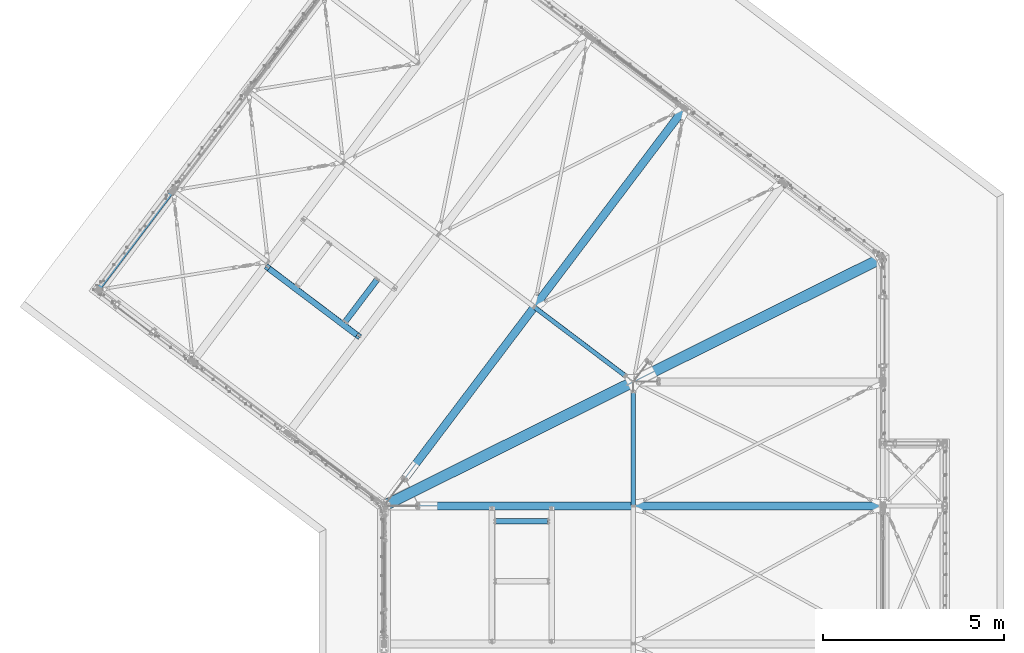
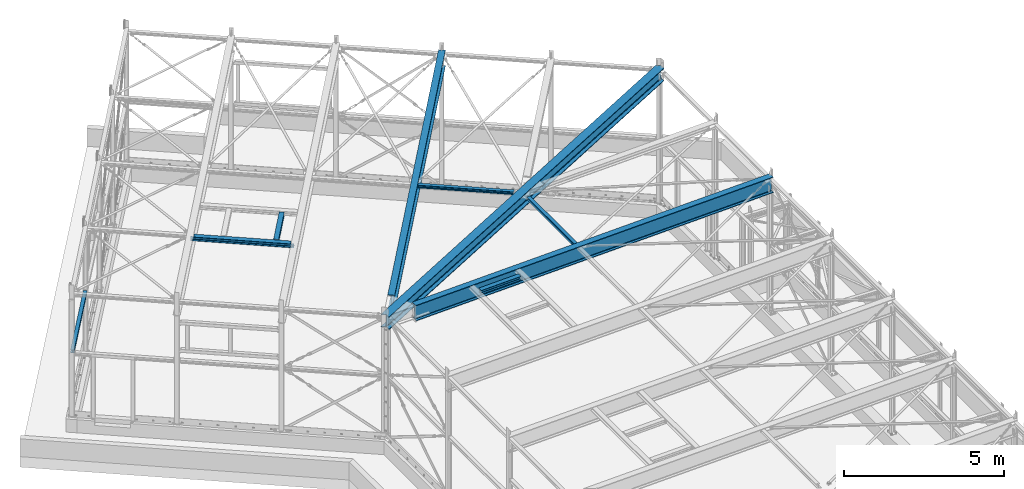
# One storey, part 20 of 476: 5 members, 4 beams, 48 openings.
"""IFC2X3 building model written with IfcOpenShell, lengths in millimetres."""

from ifc_helpers import new_model, entity, si_unit, converted_unit, point, frame, frame_2d, origin, origin_with_axes, origin_2d, origin_2d_with_axis, place, context, project, spatial, polyline, circle_curve, line_curve, trimmed, segment, composite_curve, circle, i_section, outline, extrude, clip, halfspace, material, element, save


model = new_model("IFC2X3")

# Units and contexts
model_context = context("Model", 3, precision=1e-09, world=origin_with_axes())
ifc_project = project(units=[si_unit("LENGTHUNIT", "METRE", prefix="MILLI"), si_unit("AREAUNIT", "SQUARE_METRE"), si_unit("VOLUMEUNIT", "CUBIC_METRE"), converted_unit("PLANEANGLEUNIT", "DEGREE", entity("IfcPlaneAngleMeasure", 0.01745329), si_unit("PLANEANGLEUNIT", "RADIAN"), dimensions=[0, 0, 0, 0, 0, 0, 0])], contexts=[model_context])

# Site, building, storey
site_placement = place(None, origin_with_axes())
site = spatial("IfcSite", under=ifc_project, at=site_placement, Name="mKR Teilneubau & Sanierung BA1 - Ostfildern", CompositionType="ELEMENT")
building_placement = place(site_placement, origin_with_axes())
building = spatial("IfcBuilding", under=site, at=building_placement, Name="Struktur 1", CompositionType="ELEMENT")
storey_placement = place(building_placement, origin_with_axes())
storey = spatial("IfcBuildingStorey", under=building, at=storey_placement, Name="Default Storey", CompositionType="ELEMENT", Elevation=0.0)

# Member, openings
ifc_material = material(Name="S235JR")
member_1_placement = place(None, frame((9137.515328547, -5948.67387897, 5003.322608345), z_axis=(-0.999548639, 0.0, -0.030041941), x_axis=(0.0, -1.0, 0.0)))
member_1 = element("IfcMember", 1, at=member_1_placement, inside=storey, material=ifc_material, Name="-", ObjectType="-", context=model_context, shape_type="Clipping", body=[
    clip(extrude(i_section(OverallWidth=220.0, OverallDepth=600.0, WebThickness=12.0, FlangeThickness=19.0, FilletRadius=24.0, at=origin_2d()), origin(), (0.0, 0.0, -1.0), 13258.607699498), halfspace(frame((-5948.67387897, -5388.142475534, -12728.467308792), z_axis=(0.0, 0.030041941, 0.999548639), x_axis=(1.0, 0.0, 0.0)), True)),
])
opening_1_placement = place(member_1_placement, frame((-6.5, 183.025662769, -5906.271282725), z_axis=(1.0, 0.0, 0.0), x_axis=(0.0, 1.0, -2.2474e-05)))
element("IfcOpeningElement", 2, at=opening_1_placement, cuts=member_1, ObjectType="Opening", context=model_context, shape_type="SweptSolid", body=[
    extrude(circle(Radius=7.001, at=origin_2d_with_axis()), origin(), (0.0, 0.0, 1.0), 13.0),
])
opening_2_placement = place(member_1_placement, frame((-6.5, 183.024539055, -5966.271282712), z_axis=(1.0, 0.0, 0.0), x_axis=(0.0, 1.0, -2.2474e-05)))
element("IfcOpeningElement", 3, at=opening_2_placement, cuts=member_1, ObjectType="Opening", context=model_context, shape_type="SweptSolid", body=[
    extrude(circle(Radius=7.001, at=origin_2d_with_axis()), origin(), (0.0, 0.0, 1.0), 13.0),
])
opening_3_placement = place(member_1_placement, frame((-6.5, 183.027099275, -12814.38713994), z_axis=(1.0, 0.0, 0.0), x_axis=(0.0, 1.0, 0.0)))
element("IfcOpeningElement", 4, at=opening_3_placement, cuts=member_1, ObjectType="Opening", context=model_context, shape_type="SweptSolid", body=[
    extrude(circle(Radius=7.001, at=origin_2d_with_axis()), origin(), (0.0, 0.0, 1.0), 13.0),
])
opening_4_placement = place(member_1_placement, frame((-6.5, 183.027099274, -12864.38713994), z_axis=(1.0, 0.0, 0.0), x_axis=(0.0, 1.0, 0.0)))
element("IfcOpeningElement", 5, at=opening_4_placement, cuts=member_1, ObjectType="Opening", context=model_context, shape_type="SweptSolid", body=[
    extrude(circle(Radius=7.001, at=origin_2d_with_axis()), origin(), (0.0, 0.0, 1.0), 13.0),
])
opening_5_placement = place(member_1_placement, frame((52.001, -300.5, -12851.768418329), z_axis=(0.0, -1.0, 0.0), x_axis=(1.0, 0.0, 0.0)))
element("IfcOpeningElement", 6, at=opening_5_placement, cuts=member_1, ObjectType="Opening", context=model_context, shape_type="SweptSolid", body=[
    extrude(circle(Radius=7.001, at=frame_2d((-7.001, 0.0), x_axis=(1.0, 0.0))), origin(), (0.0, 0.0, -1.0), 20.0),
])
opening_6_placement = place(member_1_placement, frame((52.001, -300.5, -12796.768418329), z_axis=(0.0, -1.0, 0.0), x_axis=(1.0, 0.0, 0.0)))
element("IfcOpeningElement", 7, at=opening_6_placement, cuts=member_1, ObjectType="Opening", context=model_context, shape_type="SweptSolid", body=[
    extrude(circle(Radius=7.001, at=frame_2d((-7.001, 0.0), x_axis=(1.0, 0.0))), origin(), (0.0, 0.0, -1.0), 20.0),
])
opening_7_placement = place(member_1_placement, frame((-37.999, -300.5, -12851.768418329), z_axis=(0.0, -1.0, 0.0), x_axis=(1.0, 0.0, 0.0)))
element("IfcOpeningElement", 8, at=opening_7_placement, cuts=member_1, ObjectType="Opening", context=model_context, shape_type="SweptSolid", body=[
    extrude(circle(Radius=7.001, at=frame_2d((-7.001, 0.0), x_axis=(1.0, 0.0))), origin(), (0.0, 0.0, -1.0), 20.0),
])
opening_8_placement = place(member_1_placement, frame((-37.999, -300.5, -12796.768418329), z_axis=(0.0, -1.0, 0.0), x_axis=(1.0, 0.0, 0.0)))
element("IfcOpeningElement", 9, at=opening_8_placement, cuts=member_1, ObjectType="Opening", context=model_context, shape_type="SweptSolid", body=[
    extrude(circle(Radius=7.001, at=frame_2d((-7.001, 0.0), x_axis=(1.0, 0.0))), origin(), (0.0, 0.0, -1.0), 20.0),
])
opening_9_placement = place(member_1_placement, frame((6.5, 247.888062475, -12885.85664774), z_axis=(-1.0, 0.0, 0.0), x_axis=(0.0, 0.030041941, 0.999548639)))
element("IfcOpeningElement", 10, at=opening_9_placement, cuts=member_1, ObjectType="Opening", context=model_context, shape_type="SweptSolid", body=[
    extrude(circle(Radius=7.001, at=origin_2d_with_axis()), origin(), (0.0, 0.0, 1.0), 13.0),
])
opening_10_placement = place(member_1_placement, frame((6.5, -247.888062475, -12870.955844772), z_axis=(-1.0, 0.0, 0.0), x_axis=(0.0, 0.030041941, 0.999548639)))
element("IfcOpeningElement", 11, at=opening_10_placement, cuts=member_1, ObjectType="Opening", context=model_context, shape_type="SweptSolid", body=[
    extrude(circle(Radius=7.001, at=origin_2d_with_axis()), origin(), (0.0, 0.0, 1.0), 13.0),
])

# Member
member_2_placement = place(None, frame((12919.483965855, -6375.673034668, 5341.051321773), z_axis=(0.999549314, 0.0, 0.030019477), x_axis=(0.0, 1.0, 0.0)))
element("IfcMember", 12, at=member_2_placement, inside=storey, material=ifc_material, Name="-", ObjectType="-", context=model_context, shape_type="Clipping", body=[
    clip(clip(extrude(i_section(OverallWidth=160.0, OverallDepth=152.0, WebThickness=6.0, FlangeThickness=9.0, FilletRadius=15.0, at=origin_2d()), origin(), (0.0, 0.0, -1.0), 1880.689827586), halfspace(frame((6375.673034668, -4950.808028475, -220.345913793), z_axis=(0.0, 0.0, -1.0), x_axis=(-1.0, 0.0, 0.0)), True)), halfspace(frame((6375.673034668, -4950.808028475, -1660.343913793), z_axis=(0.0, 0.0, 1.0), x_axis=(1.0, 0.0, 0.0)), True)),
])

# Beam, openings
beam_1_placement = place(None, frame((4793.230938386, 763.258134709, 5298.089644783), z_axis=(-0.797941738, 0.602734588, 0.0), x_axis=(0.602462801, 0.797581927, 0.030027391)))
beam_1 = element("IfcBeam", 13, at=beam_1_placement, inside=storey, material=ifc_material, Name="-", ObjectType="-", context=model_context, shape_type="Clipping", body=[
    clip(clip(extrude(i_section(OverallWidth=160.0, OverallDepth=152.0, WebThickness=6.0, FlangeThickness=9.0, FilletRadius=15.0, at=origin_2d()), origin(), (0.0, 0.0, -1.0), 3520.689898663), halfspace(frame((-3655.592037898, 5190.662357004, -131.346092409), z_axis=(0.0, 0.0, -1.0), x_axis=(0.999549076, 0.030027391, 0.0)), True)), halfspace(frame((-3655.592037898, 5190.662357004, -3389.344127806), z_axis=(0.0, 0.0, 1.0), x_axis=(-0.999549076, -0.030027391, 0.0)), True)),
])
opening_11_placement = place(beam_1_placement, frame((-1500.0000131, 0.0, -110.345070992), z_axis=(1.0, 0.0, 1.05e-07), x_axis=(-1.05e-07, 0.0, 1.0)))
element("IfcOpeningElement", 14, at=opening_11_placement, cuts=beam_1, ObjectType="Opening", context=model_context, shape_type="SweptSolid", body=[
    extrude(outline(composite_curve([segment(trimmed(line_curve((-20.200170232, 41.999903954), (0.0, 1.0), 34.800096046), [point((-20.200170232, 41.999903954))], [point((-20.200170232, 76.8))], True, "CARTESIAN"), True, "CONTINUOUS"), segment(trimmed(line_curve((-20.200170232, 76.8), (-1.0, 0.0), 104.8), [point((-20.200170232, 76.8))], [point((-125.000170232, 76.8))], True, "CARTESIAN"), True, "CONTINUOUS"), segment(trimmed(line_curve((-125.000170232, 76.8), (0.0, -1.0), 24.800096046), [point((-125.000170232, 76.8))], [point((-125.000170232, 51.999903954))], True, "CARTESIAN"), True, "CONTINUOUS"), segment(trimmed(circle_curve(frame_2d((-115.000170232, 51.999903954), x_axis=(1.0, 0.0)), 10.0), [point((-125.000170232, 51.999903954))], [point((-115.000170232, 41.999903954))], True, "CARTESIAN"), True, "CONTINUOUS"), segment(trimmed(line_curve((-115.000170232, 41.999903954), (1.0, 0.0), 94.8), [point((-115.000170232, 41.999903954))], [point((-20.200170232, 41.999903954))], True, "CARTESIAN"), True, "CONTINUOUS")], self_intersect=False)), origin(), (0.0, 0.0, 1.0), 3000.0),
])
opening_12_placement = place(beam_1_placement, frame((1500.0000131, 0.0, -3410.344827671), z_axis=(-1.0, 0.0, -1.05e-07), x_axis=(1.05e-07, 0.0, -1.0)))
element("IfcOpeningElement", 15, at=opening_12_placement, cuts=beam_1, ObjectType="Opening", context=model_context, shape_type="SweptSolid", body=[
    extrude(outline(composite_curve([segment(trimmed(line_curve((-20.19984868, 41.99990453), (0.0, 1.0), 34.80009547), [point((-20.19984868, 41.99990453))], [point((-20.19984868, 76.8))], True, "CARTESIAN"), True, "CONTINUOUS"), segment(trimmed(line_curve((-20.19984868, 76.8), (-1.0, 0.0), 104.8), [point((-20.19984868, 76.8))], [point((-124.99984868, 76.8))], True, "CARTESIAN"), True, "CONTINUOUS"), segment(trimmed(line_curve((-124.99984868, 76.8), (0.0, -1.0), 24.80009547), [point((-124.99984868, 76.8))], [point((-124.99984868, 51.99990453))], True, "CARTESIAN"), True, "CONTINUOUS"), segment(trimmed(circle_curve(frame_2d((-114.99984868, 51.99990453), x_axis=(1.0, 0.0)), 10.0), [point((-124.99984868, 51.99990453))], [point((-114.99984868, 41.99990453))], True, "CARTESIAN"), True, "CONTINUOUS"), segment(trimmed(line_curve((-114.99984868, 41.99990453), (1.0, 0.0), 94.8), [point((-114.99984868, 41.99990453))], [point((-20.19984868, 41.99990453))], True, "CARTESIAN"), True, "CONTINUOUS")], self_intersect=False)), origin(), (0.0, 0.0, 1.0), 3000.0),
])
opening_13_placement = place(beam_1_placement, frame((3.5, -16.999904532, -3364.34513619), z_axis=(-1.0, 0.0, 0.0), x_axis=(0.0, 0.0, 1.0)))
element("IfcOpeningElement", 16, at=opening_13_placement, cuts=beam_1, ObjectType="Opening", context=model_context, shape_type="SweptSolid", body=[
    extrude(circle(Radius=7.001, at=frame_2d((50.0, 40.0), x_axis=(1.0, 0.0))), origin(), (0.0, 0.0, 1.0), 7.0),
])
opening_14_placement = place(beam_1_placement, frame((3.5, -16.999904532, -3364.34513619), z_axis=(-1.0, 0.0, 0.0), x_axis=(0.0, 0.0, 1.0)))
element("IfcOpeningElement", 17, at=opening_14_placement, cuts=beam_1, ObjectType="Opening", context=model_context, shape_type="SweptSolid", body=[
    extrude(circle(Radius=7.001, at=frame_2d((0.0, 40.0), x_axis=(1.0, 0.0))), origin(), (0.0, 0.0, 1.0), 7.0),
])
opening_15_placement = place(beam_1_placement, frame((3.5, -16.999904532, -3364.34513619), z_axis=(-1.0, 0.0, 0.0), x_axis=(0.0, 0.0, 1.0)))
element("IfcOpeningElement", 18, at=opening_15_placement, cuts=beam_1, ObjectType="Opening", context=model_context, shape_type="SweptSolid", body=[
    extrude(circle(Radius=7.001, at=frame_2d((50.0, 0.0), x_axis=(1.0, 0.0))), origin(), (0.0, 0.0, 1.0), 7.0),
])
opening_16_placement = place(beam_1_placement, frame((3.5, -16.999904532, -3364.34513619), z_axis=(-1.0, 0.0, 0.0), x_axis=(0.0, 0.0, 1.0)))
element("IfcOpeningElement", 19, at=opening_16_placement, cuts=beam_1, ObjectType="Opening", context=model_context, shape_type="SweptSolid", body=[
    extrude(circle(Radius=7.001, at=origin_2d_with_axis()), origin(), (0.0, 0.0, 1.0), 7.0),
])
opening_17_placement = place(beam_1_placement, frame((3.5, 23.000096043, -199.344084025), z_axis=(1.0, 0.0, 0.0), x_axis=(0.0, 1.0, 0.0)))
element("IfcOpeningElement", 20, at=opening_17_placement, cuts=beam_1, ObjectType="Opening", context=model_context, shape_type="SweptSolid", body=[
    extrude(circle(Radius=7.001, at=frame_2d((0.0, -7.001), x_axis=(1.0, 0.0))), origin(), (0.0, 0.0, -1.0), 7.0),
])
opening_18_placement = place(beam_1_placement, frame((3.5, 23.000096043, -149.344084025), z_axis=(1.0, 0.0, 0.0), x_axis=(0.0, 1.0, 0.0)))
element("IfcOpeningElement", 21, at=opening_18_placement, cuts=beam_1, ObjectType="Opening", context=model_context, shape_type="SweptSolid", body=[
    extrude(circle(Radius=7.001, at=frame_2d((0.0, -7.001), x_axis=(1.0, 0.0))), origin(), (0.0, 0.0, -1.0), 7.0),
])
opening_19_placement = place(beam_1_placement, frame((3.5, -16.999903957, -199.344084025), z_axis=(1.0, 0.0, 0.0), x_axis=(0.0, 1.0, 0.0)))
element("IfcOpeningElement", 22, at=opening_19_placement, cuts=beam_1, ObjectType="Opening", context=model_context, shape_type="SweptSolid", body=[
    extrude(circle(Radius=7.001, at=frame_2d((0.0, -7.001), x_axis=(1.0, 0.0))), origin(), (0.0, 0.0, -1.0), 7.0),
])
opening_20_placement = place(beam_1_placement, frame((3.5, -16.999903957, -149.344084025), z_axis=(1.0, 0.0, 0.0), x_axis=(0.0, 1.0, 0.0)))
element("IfcOpeningElement", 23, at=opening_20_placement, cuts=beam_1, ObjectType="Opening", context=model_context, shape_type="SweptSolid", body=[
    extrude(circle(Radius=7.001, at=frame_2d((0.0, -7.001), x_axis=(1.0, 0.0))), origin(), (0.0, 0.0, -1.0), 7.0),
])

# Member
member_3_placement = place(None, frame((6967.398126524, -1017.248954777, 5294.776266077), z_axis=(-0.602462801, -0.797581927, -0.030027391), x_axis=(-0.797941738, 0.602734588, 0.0)))
element("IfcMember", 24, at=member_3_placement, inside=storey, material=ifc_material, Name="-", ObjectType="-", context=model_context, shape_type="Clipping", body=[
    clip(clip(extrude(i_section(OverallWidth=160.0, OverallDepth=152.0, WebThickness=6.0, FlangeThickness=9.0, FilletRadius=15.0, at=origin_2d()), origin(), (0.0, 0.0, -1.0), 1880.689827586), halfspace(frame((6172.708880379, 5190.662357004, -1660.343913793), z_axis=(0.0, 0.0, 1.0), x_axis=(-1.0, 0.0, 0.0)), True)), halfspace(frame((6172.708880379, 5190.662357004, -220.345913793), z_axis=(0.0, 0.0, -1.0), x_axis=(1.0, 0.0, 0.0)), True)),
])

# Member, openings
member_4_placement = place(None, frame((7921.267106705, -6070.322507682, 5021.787535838), z_axis=(-0.894867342, -0.445521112, -0.026895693), x_axis=(0.44568234, -0.895191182, 0.0)))
member_4 = element("IfcMember", 25, at=member_4_placement, inside=storey, material=ifc_material, Name="-", ObjectType="-", context=model_context, shape_type="SweptSolid", body=[
    extrude(i_section(OverallWidth=300.0, OverallDepth=490.0, WebThickness=12.0, FlangeThickness=23.0, FilletRadius=27.0, at=origin_2d()), origin(), (0.0, 0.0, -1.0), 16026.788764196),
])
opening_21_placement = place(member_4_placement, frame((0.0, -775.604991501, -15999.328951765), z_axis=(0.0, 0.999638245, -0.026895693), x_axis=(-1.0, 0.0, 0.0)))
element("IfcOpeningElement", 26, at=opening_21_placement, cuts=member_4, ObjectType="Opening", context=model_context, shape_type="SweptSolid", body=[
    extrude(outline(polyline([(-360.177947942, -305.888034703), (365.649796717, -305.888034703), (324.482608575, 424.184904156), (0.0, 262.63707929), (-299.568763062, 411.781206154), (-360.177947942, -305.888034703)])), origin(), (0.0, 0.0, 1.0), 1121.074333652),
])
opening_22_placement = place(member_4_placement, frame((5e-09, -344.709329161, 15.866458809), z_axis=(0.0, 0.999638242, -0.026895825), x_axis=(0.999999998, -1.685e-06, -6.2617e-05)))
element("IfcOpeningElement", 27, at=opening_22_placement, cuts=member_4, ObjectType="Opening", context=model_context, shape_type="SweptSolid", body=[
    extrude(outline(polyline([(-340.182913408, -266.888086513), (368.942201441, -266.888086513), (368.942201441, 32.720019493), (0.013559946, 216.424684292), (-353.826601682, 40.288507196), (-340.182913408, -266.888086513)])), origin(), (0.0, 0.0, 1.0), 1121.076446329),
])
opening_23_placement = place(member_4_placement, frame((51.992048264, -245.5, -15687.613324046), z_axis=(0.0, -1.0, 0.0), x_axis=(1.0, 0.0, 0.0)))
element("IfcOpeningElement", 28, at=opening_23_placement, cuts=member_4, ObjectType="Opening", context=model_context, shape_type="SweptSolid", body=[
    extrude(circle(Radius=7.001, at=frame_2d((-7.001, 0.0), x_axis=(1.0, 0.0))), origin(), (0.0, 0.0, -1.0), 24.0),
])
opening_24_placement = place(member_4_placement, frame((37.994779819, -245.5, -238.426189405), z_axis=(0.0, -1.0, 0.0), x_axis=(1.0, 0.0, 0.0)))
element("IfcOpeningElement", 29, at=opening_24_placement, cuts=member_4, ObjectType="Opening", context=model_context, shape_type="SweptSolid", body=[
    extrude(circle(Radius=7.001, at=frame_2d((7.000999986, -0.000438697), x_axis=(1.0, 0.0))), origin(), (0.0, 0.0, -1.0), 24.0),
])
opening_25_placement = place(member_4_placement, frame((-38.007951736, -245.5, -15687.613324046), z_axis=(0.0, -1.0, 0.0), x_axis=(1.0, 0.0, 0.0)))
element("IfcOpeningElement", 30, at=opening_25_placement, cuts=member_4, ObjectType="Opening", context=model_context, shape_type="SweptSolid", body=[
    extrude(circle(Radius=7.001, at=frame_2d((-7.001, 0.0), x_axis=(1.0, 0.0))), origin(), (0.0, 0.0, -1.0), 24.0),
])
opening_26_placement = place(member_4_placement, frame((51.992048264, -245.5, -15632.613324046), z_axis=(0.0, -1.0, 0.0), x_axis=(1.0, 0.0, 0.0)))
element("IfcOpeningElement", 31, at=opening_26_placement, cuts=member_4, ObjectType="Opening", context=model_context, shape_type="SweptSolid", body=[
    extrude(circle(Radius=7.001, at=frame_2d((-7.001, 0.0), x_axis=(1.0, 0.0))), origin(), (0.0, 0.0, -1.0), 24.0),
])
opening_27_placement = place(member_4_placement, frame((37.991333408, -245.5, -293.426189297), z_axis=(0.0, -1.0, 0.0), x_axis=(1.0, 0.0, 0.0)))
element("IfcOpeningElement", 32, at=opening_27_placement, cuts=member_4, ObjectType="Opening", context=model_context, shape_type="SweptSolid", body=[
    extrude(circle(Radius=7.001, at=frame_2d((7.000999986, -0.000438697), x_axis=(1.0, 0.0))), origin(), (0.0, 0.0, -1.0), 24.0),
])
opening_28_placement = place(member_4_placement, frame((-38.007951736, -245.5, -15632.613324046), z_axis=(0.0, -1.0, 0.0), x_axis=(1.0, 0.0, 0.0)))
element("IfcOpeningElement", 33, at=opening_28_placement, cuts=member_4, ObjectType="Opening", context=model_context, shape_type="SweptSolid", body=[
    extrude(circle(Radius=7.001, at=frame_2d((-7.001, 0.0), x_axis=(1.0, 0.0))), origin(), (0.0, 0.0, -1.0), 24.0),
])
opening_29_placement = place(member_4_placement, frame((-52.005220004, -245.5, -238.420549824), z_axis=(0.0, -1.0, 0.0), x_axis=(1.0, 0.0, 0.0)))
element("IfcOpeningElement", 34, at=opening_29_placement, cuts=member_4, ObjectType="Opening", context=model_context, shape_type="SweptSolid", body=[
    extrude(circle(Radius=7.001, at=frame_2d((7.000999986, -0.000438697), x_axis=(1.0, 0.0))), origin(), (0.0, 0.0, -1.0), 24.0),
])
opening_30_placement = place(member_4_placement, frame((-52.008666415, -245.5, -293.420549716), z_axis=(0.0, -1.0, 0.0), x_axis=(1.0, 0.0, 0.0)))
element("IfcOpeningElement", 35, at=opening_30_placement, cuts=member_4, ObjectType="Opening", context=model_context, shape_type="SweptSolid", body=[
    extrude(circle(Radius=7.001, at=frame_2d((7.000999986, -0.000438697), x_axis=(1.0, 0.0))), origin(), (0.0, 0.0, -1.0), 24.0),
])
opening_31_placement = place(member_4_placement, frame((6.582341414, 184.897017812, -15744.689628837), z_axis=(-0.999942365, 0.010736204, 0.0), x_axis=(0.000231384, 0.021550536, 0.999767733)))
element("IfcOpeningElement", 36, at=opening_31_placement, cuts=member_4, ObjectType="Opening", context=model_context, shape_type="SweptSolid", body=[
    extrude(circle(Radius=8.001, at=origin_2d_with_axis()), origin(), (0.0, 0.0, 1.0), 13.164013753),
])
opening_32_placement = place(member_4_placement, frame((6.582341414, -185.038364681, -15736.715470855), z_axis=(-0.999942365, 0.010736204, 0.0), x_axis=(0.000231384, 0.021550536, 0.999767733)))
element("IfcOpeningElement", 37, at=opening_32_placement, cuts=member_4, ObjectType="Opening", context=model_context, shape_type="SweptSolid", body=[
    extrude(circle(Radius=8.001, at=origin_2d_with_axis()), origin(), (0.0, 0.0, 1.0), 13.164013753),
])

# Beam
beam_2_placement = place(None, frame((2374.450956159, 2853.082501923, 2912.000000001), z_axis=(0.602734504, 0.797941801, 0.0), x_axis=(0.797941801, -0.602734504, 0.0)))
element("IfcBeam", 38, at=beam_2_placement, inside=storey, material=ifc_material, Name="-", ObjectType="-", context=model_context, shape_type="Clipping", body=[
    clip(clip(extrude(i_section(OverallWidth=120.0, OverallDepth=114.0, WebThickness=5.0, FlangeThickness=8.0, FilletRadius=12.0, at=origin_2d()), origin(), (0.0, 0.0, -1.0), 3615.517371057), halfspace(frame((-175.022404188, 2912.000000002, -182.759685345), z_axis=(0.0, 0.0, -1.0), x_axis=(1.0, 0.0, 0.0)), True)), halfspace(frame((-175.022404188, 2912.000000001, -3451.257685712), z_axis=(0.0, 0.0, 1.0), x_axis=(-1.0, 0.0, 0.0)), True)),
])

# Member, openings
member_5_placement = place(None, frame((8540.831152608, -5451.92847335, 4992.822021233), z_axis=(0.602462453, 0.797581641, 0.030041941), x_axis=(-0.797941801, 0.602734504, 0.0)))
member_5 = element("IfcMember", 39, at=member_5_placement, inside=storey, material=ifc_material, Name="-", ObjectType="-", context=model_context, shape_type="Clipping", body=[
    clip(clip(extrude(i_section(OverallWidth=220.0, OverallDepth=600.0, WebThickness=12.0, FlangeThickness=19.0, FilletRadius=24.0, at=origin_2d()), origin(), (0.0, 0.0, 1.0), 13608.138608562), halfspace(frame((10101.151595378, -5388.142475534, 13077.998217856), z_axis=(0.0, 0.030041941, -0.999548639), x_axis=(-1.0, 0.0, 0.0)), True)), halfspace(frame((10101.151595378, -4966.609046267, 349.531906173), z_axis=(0.0, 0.0, 1.0), x_axis=(1.0, 0.0, 0.0)), True)),
])
opening_33_placement = place(member_5_placement, frame((6.5, 183.027078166, 13163.916978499), z_axis=(-1.0, 0.0, 0.0), x_axis=(0.0, 1.0, 0.0)))
element("IfcOpeningElement", 40, at=opening_33_placement, cuts=member_5, ObjectType="Opening", context=model_context, shape_type="SweptSolid", body=[
    extrude(circle(Radius=7.001, at=origin_2d_with_axis()), origin(), (0.0, 0.0, 1.0), 13.0),
])
opening_34_placement = place(member_5_placement, frame((6.5, 183.027078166, 13213.916978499), z_axis=(-1.0, 0.0, 0.0), x_axis=(0.0, 1.0, 0.0)))
element("IfcOpeningElement", 41, at=opening_34_placement, cuts=member_5, ObjectType="Opening", context=model_context, shape_type="SweptSolid", body=[
    extrude(circle(Radius=7.001, at=origin_2d_with_axis()), origin(), (0.0, 0.0, 1.0), 13.0),
])
opening_35_placement = place(member_5_placement, frame((-6.5, 183.025518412, 6255.801209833), z_axis=(1.0, 0.0, 0.0), x_axis=(0.0, 1.0, 1.4557e-05)))
element("IfcOpeningElement", 42, at=opening_35_placement, cuts=member_5, ObjectType="Opening", context=model_context, shape_type="SweptSolid", body=[
    extrude(circle(Radius=7.001, at=origin_2d_with_axis()), origin(), (0.0, 0.0, 1.0), 13.0),
])
opening_36_placement = place(member_5_placement, frame((-6.5, 183.024644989, 6315.801209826), z_axis=(1.0, 0.0, 0.0), x_axis=(0.0, 1.0, 1.4557e-05)))
element("IfcOpeningElement", 43, at=opening_36_placement, cuts=member_5, ObjectType="Opening", context=model_context, shape_type="SweptSolid", body=[
    extrude(circle(Radius=7.001, at=origin_2d_with_axis()), origin(), (0.0, 0.0, 1.0), 13.0),
])
opening_37_placement = place(member_5_placement, frame((6.5, 248.0, 362.530906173), z_axis=(-1.0, 0.0, 0.0), x_axis=(0.0, 0.0, 1.0)))
element("IfcOpeningElement", 44, at=opening_37_placement, cuts=member_5, ObjectType="Opening", context=model_context, shape_type="SweptSolid", body=[
    extrude(circle(Radius=7.001, at=origin_2d_with_axis()), origin(), (0.0, 0.0, 1.0), 13.0),
])
opening_38_placement = place(member_5_placement, frame((6.5, -248.0, 362.530906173), z_axis=(-1.0, 0.0, 0.0), x_axis=(0.0, 0.0, 1.0)))
element("IfcOpeningElement", 45, at=opening_38_placement, cuts=member_5, ObjectType="Opening", context=model_context, shape_type="SweptSolid", body=[
    extrude(circle(Radius=7.001, at=origin_2d_with_axis()), origin(), (0.0, 0.0, 1.0), 13.0),
])
opening_39_placement = place(member_5_placement, frame((37.999, -300.5, 13201.299327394), z_axis=(0.0, -1.0, 0.0), x_axis=(1.0, 0.0, 0.0)))
element("IfcOpeningElement", 46, at=opening_39_placement, cuts=member_5, ObjectType="Opening", context=model_context, shape_type="SweptSolid", body=[
    extrude(circle(Radius=7.001, at=frame_2d((7.001, 0.0), x_axis=(1.0, 0.0))), origin(), (0.0, 0.0, -1.0), 20.0),
])
opening_40_placement = place(member_5_placement, frame((37.999, -300.5, 13146.299327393), z_axis=(0.0, -1.0, 0.0), x_axis=(1.0, 0.0, 0.0)))
element("IfcOpeningElement", 47, at=opening_40_placement, cuts=member_5, ObjectType="Opening", context=model_context, shape_type="SweptSolid", body=[
    extrude(circle(Radius=7.001, at=frame_2d((7.001, 0.0), x_axis=(1.0, 0.0))), origin(), (0.0, 0.0, -1.0), 20.0),
])
opening_41_placement = place(member_5_placement, frame((-52.001, -300.5, 13201.299327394), z_axis=(0.0, -1.0, 0.0), x_axis=(1.0, 0.0, 0.0)))
element("IfcOpeningElement", 48, at=opening_41_placement, cuts=member_5, ObjectType="Opening", context=model_context, shape_type="SweptSolid", body=[
    extrude(circle(Radius=7.001, at=frame_2d((7.001, 0.0), x_axis=(1.0, 0.0))), origin(), (0.0, 0.0, -1.0), 20.0),
])
opening_42_placement = place(member_5_placement, frame((-52.001, -300.5, 13146.299327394), z_axis=(0.0, -1.0, 0.0), x_axis=(1.0, 0.0, 0.0)))
element("IfcOpeningElement", 49, at=opening_42_placement, cuts=member_5, ObjectType="Opening", context=model_context, shape_type="SweptSolid", body=[
    extrude(circle(Radius=7.001, at=frame_2d((7.001, 0.0), x_axis=(1.0, 0.0))), origin(), (0.0, 0.0, -1.0), 20.0),
])
opening_43_placement = place(member_5_placement, frame((-6.5, 247.888062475, 13235.387556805), z_axis=(1.0, 0.0, 0.0), x_axis=(0.0, 0.030041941, -0.999548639)))
element("IfcOpeningElement", 50, at=opening_43_placement, cuts=member_5, ObjectType="Opening", context=model_context, shape_type="SweptSolid", body=[
    extrude(circle(Radius=7.001, at=origin_2d_with_axis()), origin(), (0.0, 0.0, 1.0), 13.0),
])
opening_44_placement = place(member_5_placement, frame((-6.5, -247.888062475, 13220.486753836), z_axis=(1.0, 0.0, 0.0), x_axis=(0.0, 0.030041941, -0.999548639)))
element("IfcOpeningElement", 51, at=opening_44_placement, cuts=member_5, ObjectType="Opening", context=model_context, shape_type="SweptSolid", body=[
    extrude(circle(Radius=7.001, at=origin_2d_with_axis()), origin(), (0.0, 0.0, 1.0), 13.0),
])

# Beam, openings
beam_3_placement = place(None, frame((12258.43963608, -392.994711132, 5364.602164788), z_axis=(-0.797941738, 0.602734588, 0.0), x_axis=(-0.602462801, -0.797581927, -0.030027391)))
beam_3 = element("IfcBeam", 52, at=beam_3_placement, inside=storey, material=ifc_material, Name="-", ObjectType="-", context=model_context, shape_type="Clipping", body=[
    clip(clip(extrude(i_section(OverallWidth=120.0, OverallDepth=114.0, WebThickness=5.0, FlangeThickness=8.0, FilletRadius=12.0, at=origin_2d()), origin(), (0.0, 0.0, -1.0), 3319.021358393), halfspace(frame((7232.892341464, -5149.739418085, -100.760483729), z_axis=(-1.05e-07, 0.0, -1.0), x_axis=(-0.999549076, -0.030027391, 1.05e-07)), True)), halfspace(frame((7232.893401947, -5149.739418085, -3216.261673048), z_axis=(0.0, 0.0, 1.0), x_axis=(0.999549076, 0.030027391, 0.0)), True)),
])
opening_45_placement = place(beam_3_placement, frame((3.0, 30.0, -3204.262673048), z_axis=(-1.0, 0.0, 0.0), x_axis=(0.0, 0.0, 1.0)))
element("IfcOpeningElement", 53, at=opening_45_placement, cuts=beam_3, ObjectType="Opening", context=model_context, shape_type="SweptSolid", body=[
    extrude(circle(Radius=6.001, at=origin_2d_with_axis()), origin(), (0.0, 0.0, 1.0), 6.0),
])
opening_46_placement = place(beam_3_placement, frame((3.0, -30.0, -3204.262673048), z_axis=(-1.0, 0.0, 0.0), x_axis=(0.0, 0.0, 1.0)))
element("IfcOpeningElement", 54, at=opening_46_placement, cuts=beam_3, ObjectType="Opening", context=model_context, shape_type="SweptSolid", body=[
    extrude(circle(Radius=6.001, at=origin_2d_with_axis()), origin(), (0.0, 0.0, 1.0), 6.0),
])

beam_4_placement = place(None, frame((15065.608780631, -2815.168802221, 5364.602213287), z_axis=(0.0, 1.0, 0.0), x_axis=(-0.999549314, 0.0, -0.030019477)))
beam_4 = element("IfcBeam", 55, at=beam_4_placement, inside=storey, material=ifc_material, Name="-", ObjectType="-", context=model_context, shape_type="Clipping", body=[
    clip(extrude(i_section(OverallWidth=120.0, OverallDepth=114.0, WebThickness=5.0, FlangeThickness=8.0, FilletRadius=12.0, at=origin_2d()), origin(), (0.0, 0.0, -1.0), 3216.263762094), halfspace(frame((15219.861475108, -4909.922760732, -3115.504076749), z_axis=(0.0, 0.0, 1.0), x_axis=(0.999549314, 0.030019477, 0.0)), True)),
])
opening_47_placement = place(beam_4_placement, frame((-3.0, 30.0, -12.001129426), z_axis=(1.0, 0.0, 0.0), x_axis=(0.0, 0.0, -1.0)))
element("IfcOpeningElement", 56, at=opening_47_placement, cuts=beam_4, ObjectType="Opening", context=model_context, shape_type="SweptSolid", body=[
    extrude(circle(Radius=6.001, at=origin_2d_with_axis()), origin(), (0.0, 0.0, 1.0), 6.0),
])
opening_48_placement = place(beam_4_placement, frame((-3.0, -30.0, -12.001129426), z_axis=(1.0, 0.0, 0.0), x_axis=(0.0, 0.0, -1.0)))
element("IfcOpeningElement", 57, at=opening_48_placement, cuts=beam_4, ObjectType="Opening", context=model_context, shape_type="SweptSolid", body=[
    extrude(circle(Radius=6.001, at=origin_2d_with_axis()), origin(), (0.0, 0.0, 1.0), 6.0),
])

save(model, "model.ifc")
